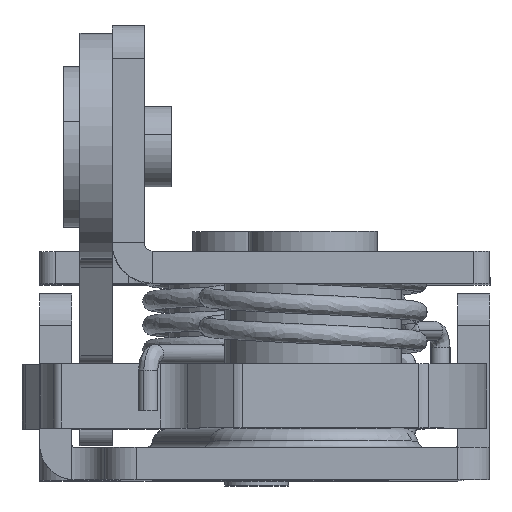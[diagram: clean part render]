
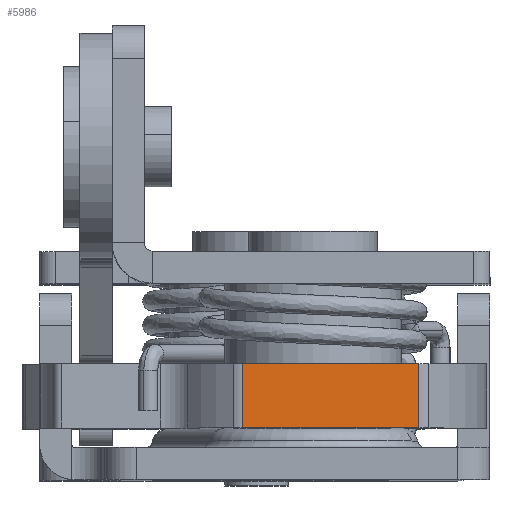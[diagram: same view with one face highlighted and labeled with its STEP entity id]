
A CAD part, top view. The second image highlights one B-rep face of the part: STEP entity #5986.
In plain terms, the highlighted planar face has unit normal (0.047, 0, 0.999) as drawn and (0, 1, 0) by its records, which use the part's own axes.
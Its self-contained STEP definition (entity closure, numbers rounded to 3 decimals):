
#78 = VERTEX_POINT ( 'NONE', #20861 ) ;
#110 = DIRECTION ( 'NONE',  ( 0., 0., 1. ) ) ;
#1152 = EDGE_CURVE ( 'NONE', #24744, #78, #15324, .T. ) ;
#1622 = CARTESIAN_POINT ( 'NONE',  ( 4.821, 8.6, 4. ) ) ;
#3588 = CARTESIAN_POINT ( 'NONE',  ( 4.821, 8.6, 0. ) ) ;
#4543 = FACE_OUTER_BOUND ( 'NONE', #28747, .T. ) ;
#5986 = ADVANCED_FACE ( 'NONE', ( #4543 ), #6816, .F. ) ;
#6816 = PLANE ( 'NONE',  #16690 ) ;
#7309 = LINE ( 'NONE', #26571, #26198 ) ;
#7715 = VERTEX_POINT ( 'NONE', #13062 ) ;
#9709 = VECTOR ( 'NONE', #13382, 1000. ) ;
#9848 = LINE ( 'NONE', #27139, #15593 ) ;
#10788 = ORIENTED_EDGE ( 'NONE', *, *, #24260, .T. ) ;
#10917 = ORIENTED_EDGE ( 'NONE', *, *, #15764, .F. ) ;
#11765 = DIRECTION ( 'NONE',  ( 0., 0., -1. ) ) ;
#13062 = CARTESIAN_POINT ( 'NONE',  ( 4.821, 8.6, 0. ) ) ;
#13382 = DIRECTION ( 'NONE',  ( 0., 0., -1. ) ) ;
#15324 = LINE ( 'NONE', #1622, #21925 ) ;
#15593 = VECTOR ( 'NONE', #110, 1000. ) ;
#15764 = EDGE_CURVE ( 'NONE', #16136, #7715, #7309, .T. ) ;
#16136 = VERTEX_POINT ( 'NONE', #29235 ) ;
#16690 = AXIS2_PLACEMENT_3D ( 'NONE', #21464, #26532, #11765 ) ;
#17065 = ORIENTED_EDGE ( 'NONE', *, *, #31591, .T. ) ;
#18838 = DIRECTION ( 'NONE',  ( -1., 0., 0. ) ) ;
#20658 = CARTESIAN_POINT ( 'NONE',  ( 4.821, 8.6, 4. ) ) ;
#20861 = CARTESIAN_POINT ( 'NONE',  ( -6.187, 8.6, 4. ) ) ;
#21464 = CARTESIAN_POINT ( 'NONE',  ( -7.6, 8.6, -7. ) ) ;
#21925 = VECTOR ( 'NONE', #18838, 1000. ) ;
#24199 = DIRECTION ( 'NONE',  ( 1., 0., 0. ) ) ;
#24239 = ORIENTED_EDGE ( 'NONE', *, *, #1152, .F. ) ;
#24260 = EDGE_CURVE ( 'NONE', #16136, #78, #9848, .T. ) ;
#24744 = VERTEX_POINT ( 'NONE', #20658 ) ;
#26198 = VECTOR ( 'NONE', #24199, 1000. ) ;
#26532 = DIRECTION ( 'NONE',  ( 0., -1., 0. ) ) ;
#26571 = CARTESIAN_POINT ( 'NONE',  ( -9., 8.6, 0. ) ) ;
#27139 = CARTESIAN_POINT ( 'NONE',  ( -6.187, 8.6, 3. ) ) ;
#28747 = EDGE_LOOP ( 'NONE', ( #10788, #24239, #17065, #10917 ) ) ;
#29235 = CARTESIAN_POINT ( 'NONE',  ( -6.187, 8.6, 0. ) ) ;
#29386 = LINE ( 'NONE', #3588, #9709 ) ;
#31591 = EDGE_CURVE ( 'NONE', #24744, #7715, #29386, .T. ) ;
